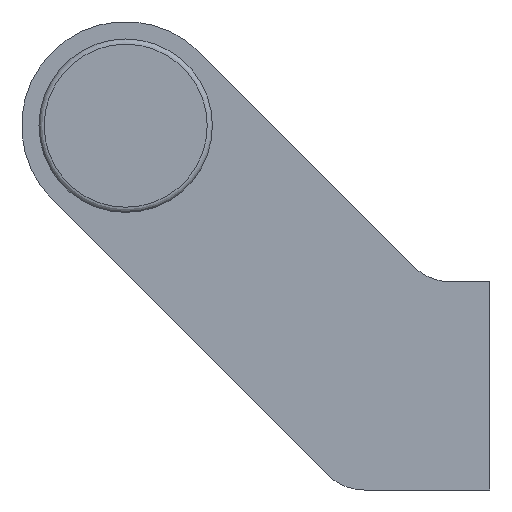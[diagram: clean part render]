
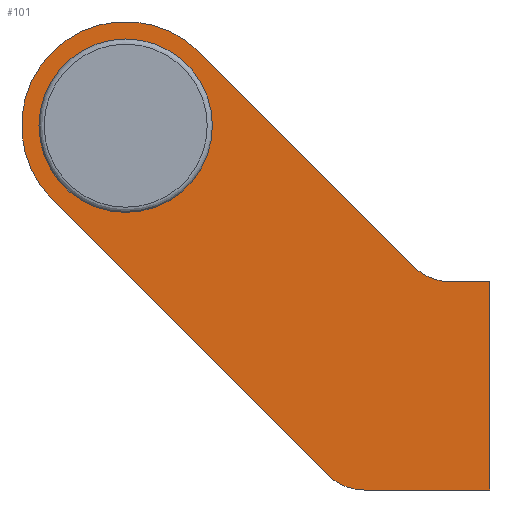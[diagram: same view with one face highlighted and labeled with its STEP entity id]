
A CAD part, left-side view. The second image highlights one B-rep face of the part: STEP entity #101.
In plain terms, the highlighted planar face has unit normal (-1, 0, 0).
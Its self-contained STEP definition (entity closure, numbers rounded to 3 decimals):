
#101 = ADVANCED_FACE( '', ( #171, #172 ), #173, .F. );
#171 = FACE_BOUND( '', #254, .T. );
#172 = FACE_OUTER_BOUND( '', #255, .T. );
#173 = PLANE( '', #256 );
#254 = EDGE_LOOP( '', ( #458 ) );
#255 = EDGE_LOOP( '', ( #459, #460, #461, #462, #463, #464, #465, #466 ) );
#256 = AXIS2_PLACEMENT_3D( '', #467, #468, #469 );
#458 = ORIENTED_EDGE( '', *, *, #547, .T. );
#459 = ORIENTED_EDGE( '', *, *, #512, .F. );
#460 = ORIENTED_EDGE( '', *, *, #548, .F. );
#461 = ORIENTED_EDGE( '', *, *, #551, .F. );
#462 = ORIENTED_EDGE( '', *, *, #501, .F. );
#463 = ORIENTED_EDGE( '', *, *, #553, .F. );
#464 = ORIENTED_EDGE( '', *, *, #556, .T. );
#465 = ORIENTED_EDGE( '', *, *, #509, .F. );
#466 = ORIENTED_EDGE( '', *, *, #505, .F. );
#467 = CARTESIAN_POINT( '', ( -206., 42., 30. ) );
#468 = DIRECTION( '', ( 1., 0., 0. ) );
#469 = DIRECTION( '', ( 0., 0., -1. ) );
#501 = EDGE_CURVE( '', #566, #567, #568, .T. );
#505 = EDGE_CURVE( '', #574, #575, #576, .T. );
#509 = EDGE_CURVE( '', #575, #582, #583, .T. );
#512 = EDGE_CURVE( '', #587, #574, #588, .T. );
#547 = EDGE_CURVE( '', #648, #648, #649, .T. );
#548 = EDGE_CURVE( '', #650, #587, #651, .T. );
#551 = EDGE_CURVE( '', #567, #650, #655, .T. );
#553 = EDGE_CURVE( '', #657, #566, #658, .T. );
#556 = EDGE_CURVE( '', #657, #582, #662, .T. );
#566 = VERTEX_POINT( '', #674 );
#567 = VERTEX_POINT( '', #675 );
#568 = LINE( '', #676, #677 );
#574 = VERTEX_POINT( '', #686 );
#575 = VERTEX_POINT( '', #687 );
#576 = CIRCLE( '', #688, 12. );
#582 = VERTEX_POINT( '', #696 );
#583 = LINE( '', #697, #698 );
#587 = VERTEX_POINT( '', #704 );
#588 = LINE( '', #705, #706 );
#648 = VERTEX_POINT( '', #786 );
#649 = CIRCLE( '', #787, 10. );
#650 = VERTEX_POINT( '', #788 );
#651 = CIRCLE( '', #789, 6. );
#655 = LINE( '', #794, #795 );
#657 = VERTEX_POINT( '', #798 );
#658 = LINE( '', #799, #800 );
#662 = CIRCLE( '', #806, 6. );
#674 = CARTESIAN_POINT( '', ( -206., 0., 12. ) );
#675 = CARTESIAN_POINT( '', ( -206., 0., -12. ) );
#676 = CARTESIAN_POINT( '', ( -206., 0., 12. ) );
#677 = VECTOR( '', #819, 1000. );
#686 = CARTESIAN_POINT( '', ( -206., 50.486, 21.515 ) );
#687 = CARTESIAN_POINT( '', ( -206., 33.515, 38.486 ) );
#688 = AXIS2_PLACEMENT_3D( '', #823, #824, #825 );
#696 = CARTESIAN_POINT( '', ( -206., 8.782, 13.757 ) );
#697 = CARTESIAN_POINT( '', ( -206., 33.515, 38.486 ) );
#698 = VECTOR( '', #831, 1000. );
#704 = CARTESIAN_POINT( '', ( -206., 18.733, -10.242 ) );
#705 = CARTESIAN_POINT( '', ( -206., 18.733, -10.242 ) );
#706 = VECTOR( '', #834, 1000. );
#786 = CARTESIAN_POINT( '', ( -206., 42., 20. ) );
#787 = AXIS2_PLACEMENT_3D( '', #897, #898, #899 );
#788 = CARTESIAN_POINT( '', ( -206., 14.49, -12. ) );
#789 = AXIS2_PLACEMENT_3D( '', #900, #901, #902 );
#794 = CARTESIAN_POINT( '', ( -206., 0., -12. ) );
#795 = VECTOR( '', #907, 1000. );
#798 = CARTESIAN_POINT( '', ( -206., 4.54, 12. ) );
#799 = CARTESIAN_POINT( '', ( -206., 4.54, 12. ) );
#800 = VECTOR( '', #909, 1000. );
#806 = AXIS2_PLACEMENT_3D( '', #912, #913, #914 );
#819 = DIRECTION( '', ( 0., 0., -1. ) );
#823 = CARTESIAN_POINT( '', ( -206., 42., 30. ) );
#824 = DIRECTION( '', ( 1., 0., 0. ) );
#825 = DIRECTION( '', ( 0., 0., -1. ) );
#831 = DIRECTION( '', ( 0., -0.707, -0.707 ) );
#834 = DIRECTION( '', ( 0., 0.707, 0.707 ) );
#897 = CARTESIAN_POINT( '', ( -206., 42., 30. ) );
#898 = DIRECTION( '', ( 1., 0., 0. ) );
#899 = DIRECTION( '', ( 0., 0., -1. ) );
#900 = CARTESIAN_POINT( '', ( -206., 14.49, -6. ) );
#901 = DIRECTION( '', ( 1., 0., 0. ) );
#902 = DIRECTION( '', ( 0., 0., -1. ) );
#907 = DIRECTION( '', ( 0., 1., 0. ) );
#909 = DIRECTION( '', ( 0., -1., 0. ) );
#912 = CARTESIAN_POINT( '', ( -206., 4.54, 18. ) );
#913 = DIRECTION( '', ( 1., 0., 0. ) );
#914 = DIRECTION( '', ( 0., 0., -1. ) );
